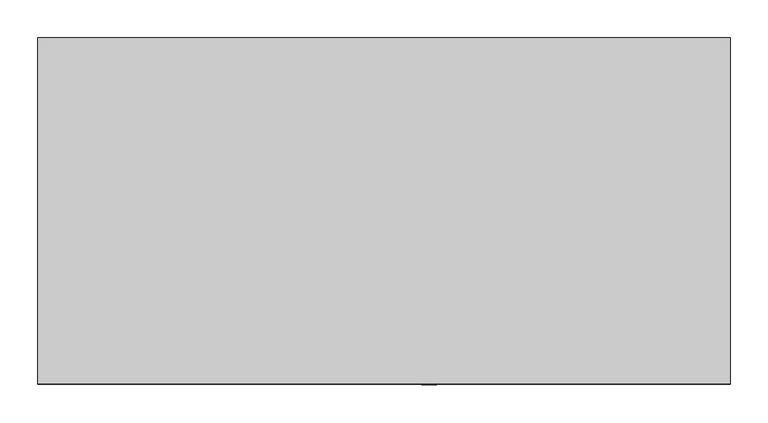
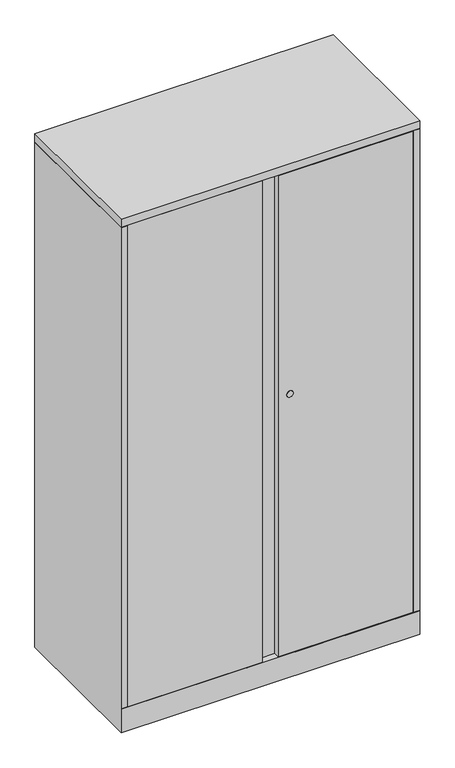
"""IFC4 building model written with IfcOpenShell, lengths in millimetres: furniture geometry, Steelcase - Universal Storage - Cabinet - Storage - 66H-84H - Flush Steel : 65 1/2H x 18D x 36W."""

from ifc_helpers import new_model, si_unit, point, frame, frame_2d, origin, place, context, project, spatial, polyline, circle_curve, trimmed, segment, composite_curve, outline, extrude, faceted_brep, source, transform, mapped, element, save


def furniture_a6252468(model_context):
    return source(origin(), model_context, "Body", "SolidModel", [
        extrude(outline(polyline([(914.4, 0.0), (914.4, -457.2), (0.0, -457.2), (0.0, 0.0), (914.4, 0.0)])), frame((0.0, 0.0, 1638.3), z_axis=(0.0, 0.0, 1.0), x_axis=(1.0, 0.0, 0.0)), (0.0, 0.0, 1.0), 25.4000484),
        extrude(outline(composite_curve([segment(trimmed(circle_curve(frame_2d((917.575, 517.0109835)), 9.7167829), [point((917.575, 526.7277664))], [point((917.575, 507.2942006))], False, "CARTESIAN"), True, "CONTINUOUS"), segment(trimmed(circle_curve(frame_2d((917.575, 517.0109835)), 9.7167829), [point((917.575, 507.2942006))], [point((917.575, 526.7277664))], False, "CARTESIAN"), True, "CONTINUOUS")], self_intersect=False)), frame((0.0, -457.8695275, 0.0), z_axis=(0.0, 1.0, 0.0), x_axis=(0.0, 0.0, 1.0)), (0.0, 0.0, 1.0), 0.6695275),
        extrude(outline(polyline([(20.8280006, -431.673866), (893.572, -431.673866), (893.572, -457.2), (481.33, -457.2), (481.33, -438.0238781), (433.07, -438.0238781), (433.07, -457.2), (20.8280006, -457.2), (20.8280006, -431.673866)])), frame((0.0, 0.0, 77.724), z_axis=(0.0, 0.0, 1.0), x_axis=(1.0, 0.0, 0.0)), (0.0, 0.0, 1.0), 1559.052),
        faceted_brep([(914.4, 0.0, 0.0), (914.4, -457.2, 0.0), (0.0, -457.2, 0.0), (0.0, 0.0, 0.0), (0.0, 0.0, 1636.776), (914.4, 0.0, 1636.776), (0.0, -457.2, 76.2), (0.0, -457.2, 77.724), (0.0, -457.2, 1636.776), (914.4, -457.2, 76.2), (914.4, -457.2, 1636.776), (914.4, -457.2, 77.724), (889.0000242, -25.4000008, 1636.776), (889.0000242, -430.1498674, 1636.776), (893.572, -430.1498674, 1636.776), (893.572, -431.6738781, 1636.776), (895.096, -431.6738781, 1636.776), (895.096, -457.2, 1636.776), (19.304, -457.2, 1636.776), (19.304, -431.673866, 1636.776), (20.8280006, -431.673866, 1636.776), (20.8280006, -430.1498674, 1636.776), (25.4000008, -430.1498674, 1636.776), (25.4000008, -25.4000008, 1636.776), (19.304, -457.2, 77.724), (19.304, -437.896, 77.724), (895.096, -457.2, 77.724), (895.096, -437.7698418, 77.724), (889.0000242, -25.4000008, 77.724), (889.0000242, -430.1498674, 77.724), (893.572, -430.1498674, 77.724), (893.572, -431.6738781, 77.724), (895.096, -431.6738781, 77.724), (19.304, -431.673866, 77.724), (20.8280006, -431.673866, 77.724), (20.8280006, -430.1498674, 77.724), (25.4000008, -430.1498674, 77.724), (25.4000008, -25.4000008, 77.724), (25.526134, -431.673866, 77.724), (889.0000242, -431.673866, 77.724)], [[[0, 1, 2, 3]], [[0, 3, 4, 5]], [[4, 3, 2, 6, 7, 8]], [[2, 1, 9, 6]], [[1, 0, 5, 10, 11, 9]], [[12, 13, 14, 15, 16, 17, 10, 5, 4, 8, 18, 19, 20, 21, 22, 23]], [[24, 7, 25]], [[11, 26, 27]], [[13, 12, 28, 29]], [[14, 13, 29, 30]], [[15, 14, 30, 31]], [[16, 15, 31, 32]], [[17, 16, 32, 27, 26]], [[10, 17, 26, 11]], [[18, 8, 7, 24]], [[19, 18, 24, 25, 33]], [[20, 19, 33, 34]], [[21, 20, 34, 35]], [[22, 21, 35, 36]], [[23, 22, 36, 37]], [[12, 23, 37, 28]], [[38, 39, 27, 32, 31, 30, 29, 28, 37, 36, 35, 34, 33, 25]], [[7, 6, 38, 25]], [[39, 38, 6, 9]], [[39, 9, 11, 27]]]),
    ])


if __name__ == "__main__":
    model = new_model("IFC4")
    model_context = context("Model", 3, world=origin())
    ifc_project = project(units=[si_unit("LENGTHUNIT", "METRE", prefix="MILLI")], contexts=[model_context])
    site = spatial("IfcSite", under=ifc_project)
    building = spatial("IfcBuilding", under=site)
    placement = place(None, origin())
    furniture_shape = furniture_a6252468(model_context)
    element("IfcFurniture", 1, ObjectType="Steelcase - Universal Storage - Cabinet - Storage - 66H-84H - Flush Steel : 65 1/2H x 18D x 36W", at=placement, inside=building, context=model_context, shape_type="MappedRepresentation", body=[
        mapped(furniture_shape, transform((0.0, 0.0, 0.0), x_axis=(1.0, 0.0, 0.0), y_axis=(0.0, 1.0, 0.0), z_axis=(0.0, 0.0, 1.0))),
    ])
    save(model, "model.ifc")
